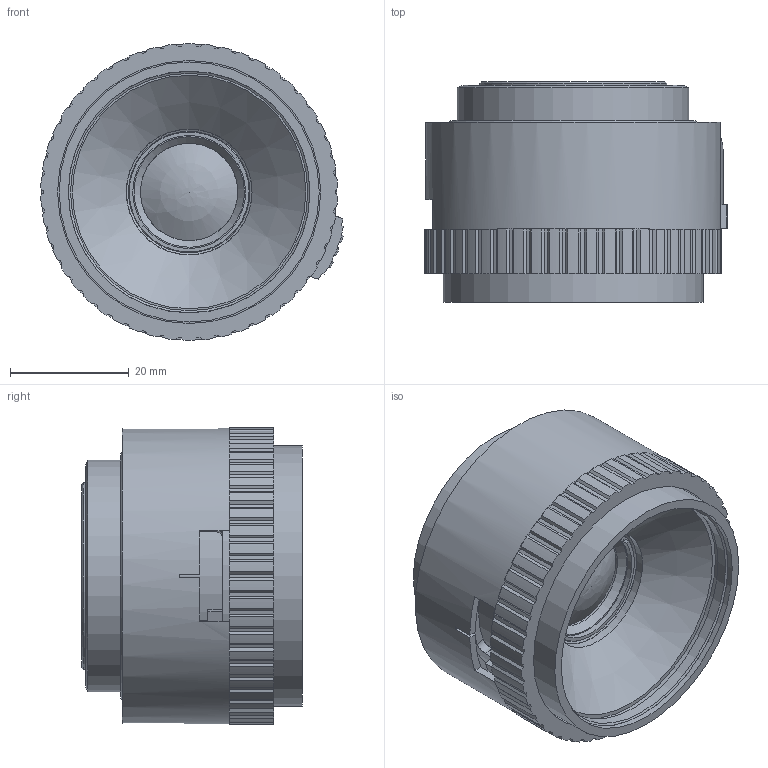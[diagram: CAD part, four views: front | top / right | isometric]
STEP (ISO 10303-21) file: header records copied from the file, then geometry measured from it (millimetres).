
FILE_DESCRIPTION(/* description */ (''),/* implementation_level */ '2;1');
FILE_NAME(/* name */ '0701-399-000_40_AP',/* time_stamp */ '2009-08-04T09:27:18+02:00',/* author */ (''),/* organization */ (''),/* preprocessor_version */ 'ST-DEVELOPER v9',/* originating_system */ 'UGS - NX 4.0',/* authorisation */ '');
FILE_SCHEMA (('AUTOMOTIVE_DESIGN { 1 0 10303 214 1 1 1 1 }'));
Length unit declared in the file: millimetre
Products named in the file (1): pant1ED2u9te
Bounding box: 50.94 x 37.15 x 50 mm (x, y, z)
Volume: 45370.6 mm3; surface area: 23587.4 mm2
Topology: 1 solids, 7 shells, 497 faces, 1258 edges, 800 vertices
Faces by surface type: plane 346, cylinder 123, cone 26, revolution 2
Full cylindrical faces by diameter (mm): 14 x1, 16.4 x1, 17.5 x1, 19.458 x1, 20.2 x2, 20.458 x2, 21.2 x2, 28.7 x1, 28.807 x1, 28.959 x2, 31.3 x1, 31.5 x1, 35.6 x1, 37 x1, 37.459 x2, 37.5 x1, 38 x1, 39 x2, 39.7 x1, 39.8 x2, 39.958 x1, 40.2 x1, 40.35 x2, 40.5 x3, 40.7 x2, 42.2 x1, 42.5 x1, 43.8 x1, 44.3 x1, 49.7 x1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
Entity records: 17862 total; most frequent: CARTESIAN_POINT 2628, DIRECTION 2529, ORIENTED_EDGE 2350, EDGE_CURVE 1175, AXIS2_PLACEMENT_3D 873, VERTEX_POINT 784, LINE 781, VECTOR 781
